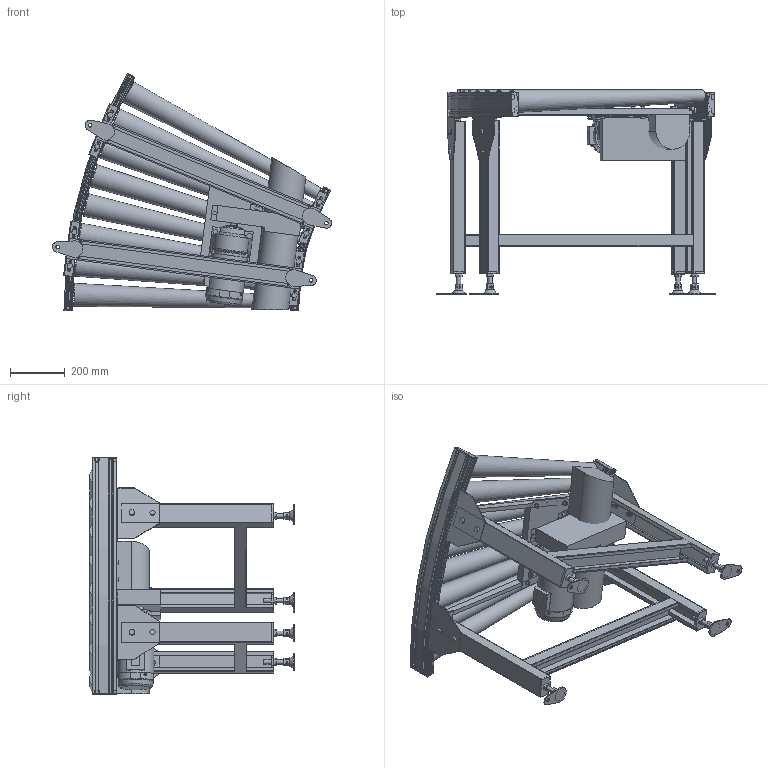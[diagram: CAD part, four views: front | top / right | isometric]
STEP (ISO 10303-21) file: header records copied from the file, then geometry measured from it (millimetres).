
FILE_DESCRIPTION( (''), '2;1');
FILE_NAME ('WEB-MCD1-50-800-75-30°-C9.stp','2026-06-19T11:10:31',(''),(''),'spGate 21.9.5 (****-****-****-****)','','');
FILE_SCHEMA (('AUTOMOTIVE_DESIGN'));
Length unit declared in the file: millimetre
Products named in the file (28): WEB-MCD1-50-800-75-30_-C9; TEMP_X_T-prt0; TEMP_X_T-prt1; TEMP_X_T-prt2; TEMP_X_T-prt3; TEMP_X_T-prt4; TEMP_X_T-prt5; TEMP_X_T-prt6; TEMP_X_T-prt7; TEMP_X_T-prt8; TEMP_X_T-prt9; TEMP_X_T-prt10; TEMP_X_T-prt11; TEMP_X_T-prt12; TEMP_X_T-prt13; TEMP_X_T-prt14; TEMP_X_T-prt15; TEMP_X_T-prt16; TEMP_X_T-prt17; TEMP_X_T-prt18; TEMP_X_T-prt19; TEMP_X_T-prt20; TEMP_X_T-prt21; TEMP_X_T-prt22; TEMP_X_T-prt23; TEMP_X_T-prt24; TEMP_X_T-prt25; TEMP_X_T-prt26
Assembly tree (27 placements, depth 2):
  WEB-MCD1-50-800-75-30_-C9
    TEMP_X_T-prt0
    TEMP_X_T-prt1
    TEMP_X_T-prt2
    TEMP_X_T-prt3
    TEMP_X_T-prt4
    TEMP_X_T-prt5
    TEMP_X_T-prt6
    TEMP_X_T-prt7
    TEMP_X_T-prt8
    TEMP_X_T-prt9
    TEMP_X_T-prt10
    TEMP_X_T-prt11
    TEMP_X_T-prt12
    TEMP_X_T-prt13
    TEMP_X_T-prt14
    TEMP_X_T-prt15
    TEMP_X_T-prt16
    TEMP_X_T-prt17
    TEMP_X_T-prt18
    TEMP_X_T-prt19
    TEMP_X_T-prt20
    TEMP_X_T-prt21
    TEMP_X_T-prt22
    TEMP_X_T-prt23
    TEMP_X_T-prt24
    TEMP_X_T-prt25
    TEMP_X_T-prt26
Bounding box: 1023.13 x 750 x 870.6 mm (x, y, z)
Volume: 44044807.6 mm3; surface area: 4679973.8 mm2
Topology: 27 solids, 31 shells, 1593 faces, 3962 edges, 2590 vertices
Faces by surface type: plane 1301, cylinder 253, bspline 39
Full cylindrical faces by diameter (mm): 6 x1, 8 x16, 10 x24, 10.5 x4, 11 x4, 12 x17, 12.2 x2, 12.5 x2, 13 x4, 15.4 x8, 16 x18, 17 x8, 18.4 x20, 21 x12, 24 x1, 28 x1, 56 x1, 113.2 x1, 125 x1, 135.411 x1
Entity records: 81039 total; most frequent: CARTESIAN_POINT 9534, DIRECTION 7944, ORIENTED_EDGE 7922, COLOUR_RGB 5581, PRESENTATION_STYLE_ASSIGNMENT 5581, STYLED_ITEM 5581, EDGE_CURVE 3961, DRAUGHTING_PRE_DEFINED_CURVE_FONT 3961
